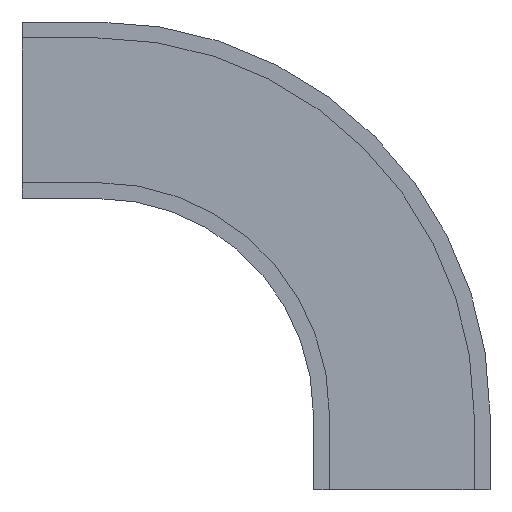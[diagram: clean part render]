
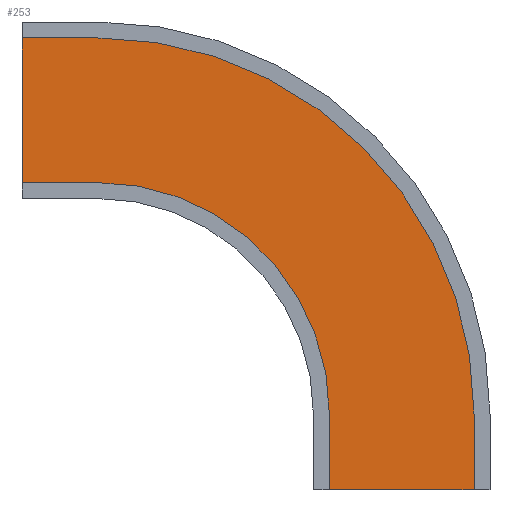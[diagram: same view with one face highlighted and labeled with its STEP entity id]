
A CAD part, front view. The second image highlights one B-rep face of the part: STEP entity #253.
In plain terms, the highlighted planar face has unit normal (0, -1, 0).
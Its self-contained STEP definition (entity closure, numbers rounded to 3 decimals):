
#50 = ORIENTED_EDGE ( 'NONE', *, *, #1742, .F. ) ;
#51 = ORIENTED_EDGE ( 'NONE', *, *, #1743, .F. ) ;
#52 = ORIENTED_EDGE ( 'NONE', *, *, #1744, .F. ) ;
#53 = ORIENTED_EDGE ( 'NONE', *, *, #1745, .T. ) ;
#54 = ORIENTED_EDGE ( 'NONE', *, *, #1739, .T. ) ;
#55 = ORIENTED_EDGE ( 'NONE', *, *, #1746, .F. ) ;
#56 = ORIENTED_EDGE ( 'NONE', *, *, #1747, .F. ) ;
#57 = ORIENTED_EDGE ( 'NONE', *, *, #1748, .T. ) ;
#66 = VERTEX_POINT ( 'NONE', #1633 ) ;
#74 = VERTEX_POINT ( 'NONE', #1640 ) ;
#77 = VERTEX_POINT ( 'NONE', #1643 ) ;
#78 = VERTEX_POINT ( 'NONE', #1644 ) ;
#79 = VERTEX_POINT ( 'NONE', #1645 ) ;
#80 = VERTEX_POINT ( 'NONE', #1646 ) ;
#81 = VERTEX_POINT ( 'NONE', #1647 ) ;
#84 = VERTEX_POINT ( 'NONE', #1650 ) ;
#253 = ADVANCED_FACE ( 'NONE', ( #806 ), #1195, .F. ) ;
#307 = EDGE_LOOP ( 'NONE', ( #50, #51, #52, #53, #54, #55, #56, #57 ) ) ;
#806 = FACE_OUTER_BOUND ( 'NONE', #307, .T. ) ;
#1193 = CARTESIAN_POINT ( 'NONE',  ( 0., -68., 304.75 ) ) ;
#1195 = PLANE ( 'NONE',  #1821 ) ;
#1197 = DIRECTION ( 'NONE',  ( 0., 1., 0. ) ) ;
#1198 = DIRECTION ( 'NONE',  ( -1., 0., 0. ) ) ;
#1384 = DIRECTION ( 'NONE',  ( 1., 0., 0. ) ) ;
#1386 = CARTESIAN_POINT ( 'NONE',  ( 0., -68., 0. ) ) ;
#1387 = DIRECTION ( 'NONE',  ( 0., 1., 0. ) ) ;
#1388 = DIRECTION ( 'NONE',  ( -1., 0., 0. ) ) ;
#1391 = CARTESIAN_POINT ( 'NONE',  ( -100., -68., 0. ) ) ;
#1392 = CARTESIAN_POINT ( 'NONE',  ( 0., -68., -100. ) ) ;
#1393 = CARTESIAN_POINT ( 'NONE',  ( -100., -68., 495.25 ) ) ;
#1394 = CARTESIAN_POINT ( 'NONE',  ( 0., -68., 0. ) ) ;
#1395 = DIRECTION ( 'NONE',  ( 0., 1., 0. ) ) ;
#1396 = DIRECTION ( 'NONE',  ( -1., 0., 0. ) ) ;
#1397 = DIRECTION ( 'NONE',  ( 0., 0., 1. ) ) ;
#1398 = CARTESIAN_POINT ( 'NONE',  ( -100., -68., 304.75 ) ) ;
#1399 = DIRECTION ( 'NONE',  ( 1., 0., 0. ) ) ;
#1400 = CARTESIAN_POINT ( 'NONE',  ( 304.75, -68., -100. ) ) ;
#1402 = DIRECTION ( 'NONE',  ( 0., 0., 1. ) ) ;
#1403 = DIRECTION ( 'NONE',  ( -1., 0., 0. ) ) ;
#1404 = CARTESIAN_POINT ( 'NONE',  ( 495.25, -68., -100. ) ) ;
#1405 = DIRECTION ( 'NONE',  ( 0., 0., 1. ) ) ;
#1573 = CIRCLE ( 'NONE', #1847, 304.75 ) ;
#1575 = LINE ( 'NONE', #1393, #1582 ) ;
#1578 = CIRCLE ( 'NONE', #1848, 495.25 ) ;
#1580 = LINE ( 'NONE', #1391, #1584 ) ;
#1581 = LINE ( 'NONE', #1392, #1590 ) ;
#1582 = VECTOR ( 'NONE', #1384, 1000. ) ;
#1583 = LINE ( 'NONE', #1398, #1586 ) ;
#1584 = VECTOR ( 'NONE', #1397, 1000. ) ;
#1585 = LINE ( 'NONE', #1400, #1588 ) ;
#1586 = VECTOR ( 'NONE', #1399, 1000. ) ;
#1588 = VECTOR ( 'NONE', #1402, 1000. ) ;
#1589 = LINE ( 'NONE', #1404, #1592 ) ;
#1590 = VECTOR ( 'NONE', #1403, 1000. ) ;
#1592 = VECTOR ( 'NONE', #1405, 1000. ) ;
#1633 = CARTESIAN_POINT ( 'NONE',  ( 495.25, -68., 0. ) ) ;
#1640 = CARTESIAN_POINT ( 'NONE',  ( 0., -68., 304.75 ) ) ;
#1643 = CARTESIAN_POINT ( 'NONE',  ( 304.75, -68., 0. ) ) ;
#1644 = CARTESIAN_POINT ( 'NONE',  ( 304.75, -68., -100. ) ) ;
#1645 = CARTESIAN_POINT ( 'NONE',  ( -100., -68., 495.25 ) ) ;
#1646 = CARTESIAN_POINT ( 'NONE',  ( 0., -68., 495.25 ) ) ;
#1647 = CARTESIAN_POINT ( 'NONE',  ( -100., -68., 304.75 ) ) ;
#1650 = CARTESIAN_POINT ( 'NONE',  ( 495.25, -68., -100. ) ) ;
#1739 = EDGE_CURVE ( 'NONE', #74, #77, #1573, .T. ) ;
#1742 = EDGE_CURVE ( 'NONE', #80, #66, #1578, .T. ) ;
#1743 = EDGE_CURVE ( 'NONE', #79, #80, #1575, .T. ) ;
#1744 = EDGE_CURVE ( 'NONE', #81, #79, #1580, .T. ) ;
#1745 = EDGE_CURVE ( 'NONE', #81, #74, #1583, .T. ) ;
#1746 = EDGE_CURVE ( 'NONE', #78, #77, #1585, .T. ) ;
#1747 = EDGE_CURVE ( 'NONE', #84, #78, #1581, .T. ) ;
#1748 = EDGE_CURVE ( 'NONE', #84, #66, #1589, .T. ) ;
#1821 = AXIS2_PLACEMENT_3D ( 'NONE', #1193, #1197, #1198 ) ;
#1847 = AXIS2_PLACEMENT_3D ( 'NONE', #1386, #1387, #1388 ) ;
#1848 = AXIS2_PLACEMENT_3D ( 'NONE', #1394, #1395, #1396 ) ;
